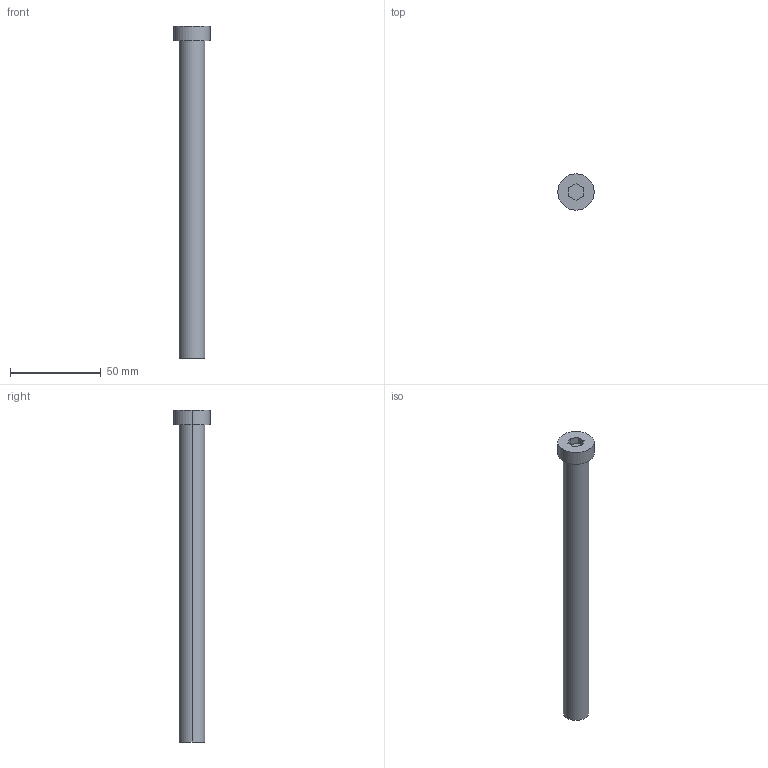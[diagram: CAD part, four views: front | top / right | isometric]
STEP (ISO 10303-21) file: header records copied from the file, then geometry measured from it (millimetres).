
FILE_DESCRIPTION (( 'STEP AP214' ), '1' );
FILE_NAME ('BruyRubio_TGH__14_x_175_-_M-10.STEP', '2019-12-22T23:36:51', ( '' ), ( '' ), 'SwSTEP 2.0', 'SolidWorks 2017', '' );
FILE_SCHEMA (( 'AUTOMOTIVE_DESIGN' ));
Length unit declared in the file: millimetre
Products named in the file (1): BruyRubio_TGH__14_x_175_-_M-10
Bounding box: 20 x 20 x 183 mm (x, y, z)
Volume: 27935.9 mm3; surface area: 10670.9 mm2
Topology: 2 solids, 2 shells, 27 faces, 58 edges, 37 vertices
Faces by surface type: plane 13, cylinder 12, cone 2
Entity records: 1070 total; most frequent: DIRECTION 136, CARTESIAN_POINT 121, ORIENTED_EDGE 112, EDGE_CURVE 56, AXIS2_PLACEMENT_3D 52, VERTEX_POINT 37, EDGE_LOOP 33, LINE 32
